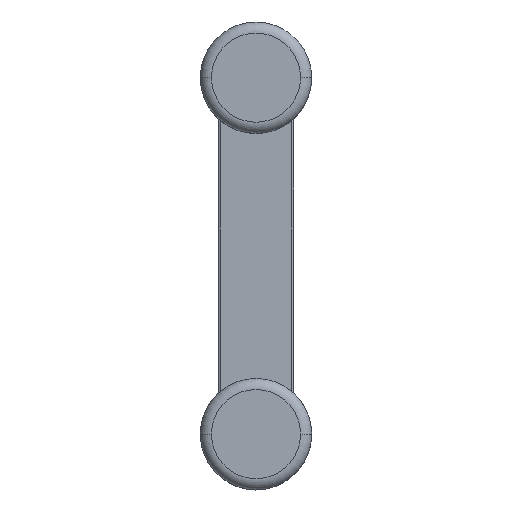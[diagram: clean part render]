
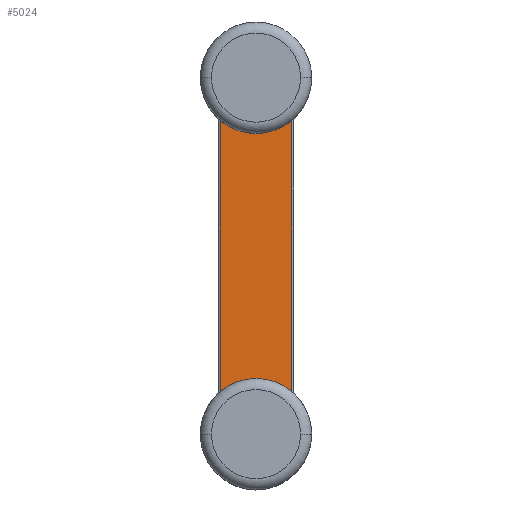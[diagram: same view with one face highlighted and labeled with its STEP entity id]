
A CAD part, top view. The second image highlights one B-rep face of the part: STEP entity #5024.
In plain terms, the highlighted planar face has unit normal (0, 0, 1).
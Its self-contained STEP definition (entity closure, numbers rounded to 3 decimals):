
#124 = CARTESIAN_POINT ( 'NONE',  ( -3.2, -16.158, 50.5 ) ) ;
#229 = VERTEX_POINT ( 'NONE', #759 ) ;
#759 = CARTESIAN_POINT ( 'NONE',  ( -3.2, 8.158, 50.5 ) ) ;
#793 = LINE ( 'NONE', #2056, #4094 ) ;
#1031 = EDGE_CURVE ( 'NONE', #5133, #5191, #1590, .T. ) ;
#1045 = CIRCLE ( 'NONE', #4340, 5. ) ;
#1063 = DIRECTION ( 'NONE',  ( 0., 0., 1. ) ) ;
#1220 = DIRECTION ( 'NONE',  ( 0., 0., 1. ) ) ;
#1378 = DIRECTION ( 'NONE',  ( 0., 0., 1. ) ) ;
#1530 = VERTEX_POINT ( 'NONE', #4413 ) ;
#1590 = CIRCLE ( 'NONE', #4642, 5. ) ;
#1617 = CARTESIAN_POINT ( 'NONE',  ( 0., -20., 50.5 ) ) ;
#1877 = ORIENTED_EDGE ( 'NONE', *, *, #4210, .T. ) ;
#1886 = ORIENTED_EDGE ( 'NONE', *, *, #4528, .F. ) ;
#1893 = DIRECTION ( 'NONE',  ( 0., 1., 0. ) ) ;
#2056 = CARTESIAN_POINT ( 'NONE',  ( 3.2, 13.8, 50.5 ) ) ;
#2235 = CARTESIAN_POINT ( 'NONE',  ( 3.2, -16.158, 50.5 ) ) ;
#2495 = DIRECTION ( 'NONE',  ( 0., -1., 0. ) ) ;
#3281 = EDGE_CURVE ( 'NONE', #5133, #1530, #793, .T. ) ;
#3490 = ORIENTED_EDGE ( 'NONE', *, *, #1031, .F. ) ;
#3500 = VECTOR ( 'NONE', #2495, 1000. ) ;
#3689 = AXIS2_PLACEMENT_3D ( 'NONE', #3909, #1220, #4401 ) ;
#3733 = ORIENTED_EDGE ( 'NONE', *, *, #3281, .T. ) ;
#3760 = CARTESIAN_POINT ( 'NONE',  ( 0., 12., 50.5 ) ) ;
#3807 = DIRECTION ( 'NONE',  ( 1., 0., 0. ) ) ;
#3852 = EDGE_LOOP ( 'NONE', ( #1877, #3490, #3733, #1886 ) ) ;
#3909 = CARTESIAN_POINT ( 'NONE',  ( -4., -25.25, 50.5 ) ) ;
#4094 = VECTOR ( 'NONE', #1893, 1000. ) ;
#4152 = FACE_OUTER_BOUND ( 'NONE', #3852, .T. ) ;
#4210 = EDGE_CURVE ( 'NONE', #229, #5191, #5681, .T. ) ;
#4231 = DIRECTION ( 'NONE',  ( 1., 0., 0. ) ) ;
#4340 = AXIS2_PLACEMENT_3D ( 'NONE', #3760, #1063, #4231 ) ;
#4401 = DIRECTION ( 'NONE',  ( 1., 0., 0. ) ) ;
#4413 = CARTESIAN_POINT ( 'NONE',  ( 3.2, 8.158, 50.5 ) ) ;
#4528 = EDGE_CURVE ( 'NONE', #229, #1530, #1045, .T. ) ;
#4642 = AXIS2_PLACEMENT_3D ( 'NONE', #1617, #1378, #3807 ) ;
#5024 = ADVANCED_FACE ( 'NONE', ( #4152 ), #5788, .T. ) ;
#5133 = VERTEX_POINT ( 'NONE', #2235 ) ;
#5191 = VERTEX_POINT ( 'NONE', #124 ) ;
#5681 = LINE ( 'NONE', #5732, #3500 ) ;
#5732 = CARTESIAN_POINT ( 'NONE',  ( -3.2, -21.8, 50.5 ) ) ;
#5788 = PLANE ( 'NONE',  #3689 ) ;
